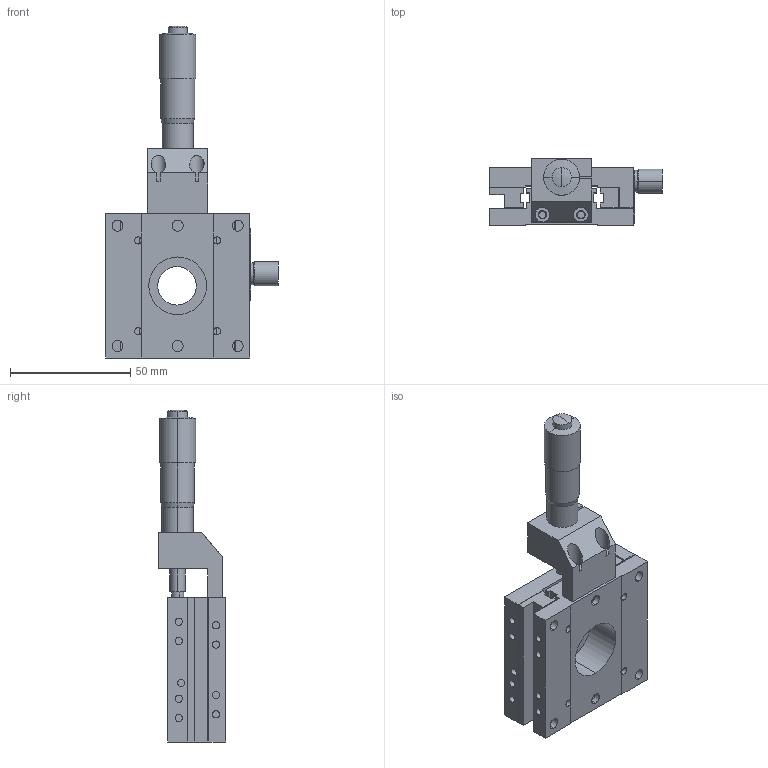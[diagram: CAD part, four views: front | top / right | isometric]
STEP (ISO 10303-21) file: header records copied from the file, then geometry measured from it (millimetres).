
FILE_DESCRIPTION (( 'STEP AP203' ), '1' );
FILE_NAME ('M1-627-C1.STEP', '2014-07-29T09:36:09', ( 'Registered User' ), ( 'Microsoft Corporation' ), 'SwSTEP 2.0', 'SolidWorks 2012', '' );
FILE_SCHEMA (( 'CONFIG_CONTROL_DESIGN' ));
Length unit declared in the file: millimetre
Products named in the file (11): M1-627-C1; Head(15mm); BALL BEARING GUIDE; BALL BEARING GUIDE2; WASHER; PIN; MICRO HEAD BLOCK-C; CLAMP BOLT; CARRIAGE PLATE; BRACKET; BASE PLATE
Assembly tree (10 placements, depth 2):
  M1-627-C1
    BASE PLATE
    BRACKET
    CARRIAGE PLATE
    CLAMP BOLT
    MICRO HEAD BLOCK-C
    PIN
    WASHER
    BALL BEARING GUIDE2
    BALL BEARING GUIDE
    Head(15mm)
Bounding box: 71.9 x 28 x 138 mm (x, y, z)
Volume: 82952.7 mm3; surface area: 39931.2 mm2
Topology: 10 solids, 10 shells, 366 faces, 873 edges, 580 vertices
Faces by surface type: cylinder 206, plane 152, sphere 4, cone 4
Entity records: 12120 total; most frequent: DIRECTION 2041, CARTESIAN_POINT 1896, ORIENTED_EDGE 1746, EDGE_CURVE 873, AXIS2_PLACEMENT_3D 799, VERTEX_POINT 580, EDGE_LOOP 487, LINE 443
